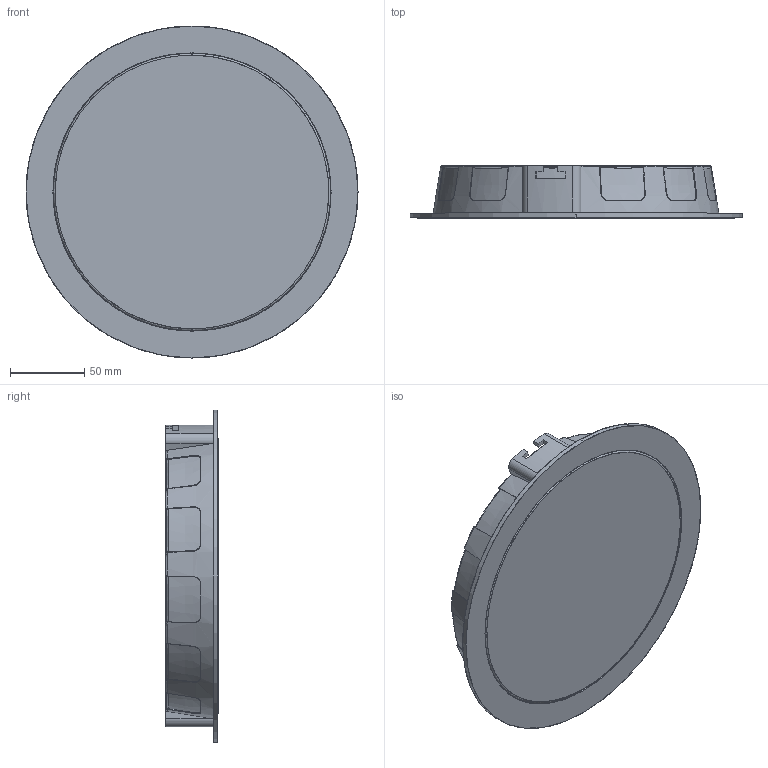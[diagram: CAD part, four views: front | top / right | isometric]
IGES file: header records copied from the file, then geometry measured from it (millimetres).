
Start section: SolidWorks IGES file using analytic representation for surfaces
Global section: file name: F:\GABRYSIA\MODELE 3D\OPRAWY\CL-KOS-LED-8775-WWW\CL-KOS-LED-8775.IGS; native system: SolidWorks 2017; preprocessor: SolidWorks 2017; author: Togambi; date: 200901.141247; units: millimetre
Bounding box: 224 x 35.36 x 224 mm (x, y, z)
Surface area: 176879.9 mm2 (no closed solid volume)
Topology: 0 solids, 0 shells, 270 faces, 3518 edges, 3524 vertices
Faces by surface type: bspline 186, revolution 84
